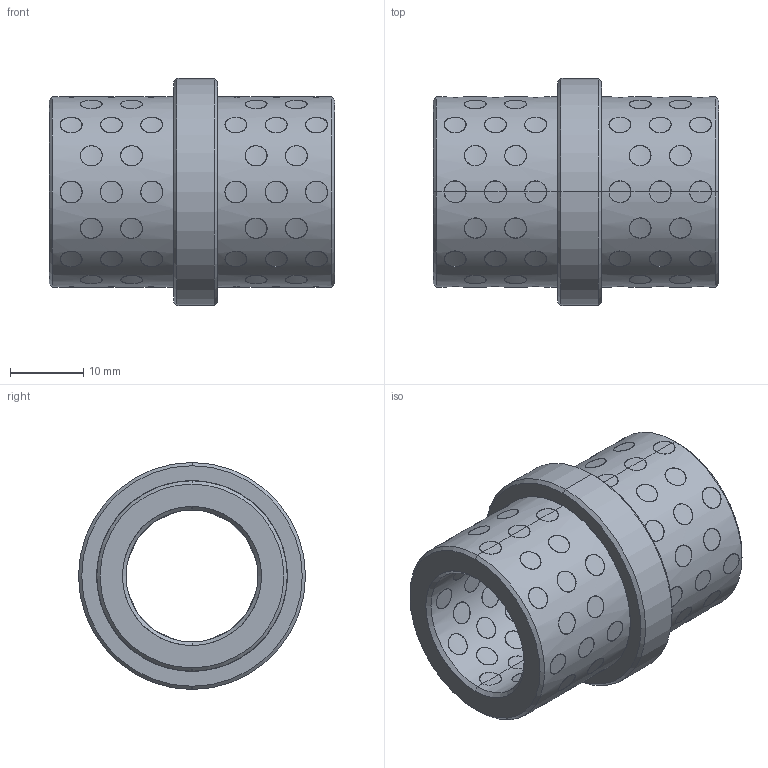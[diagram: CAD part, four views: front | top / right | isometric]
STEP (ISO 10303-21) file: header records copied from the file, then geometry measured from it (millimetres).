
FILE_DESCRIPTION(('CATIA V5 STEP Exchange'),'2;1');
FILE_NAME('C:\Users\Utente\Desktop\3D files G313\G3131822.stp','2020-04-22T07:36:22+00:00',('none'),('none'),'CATIA Version 5 Release 20 GA (IN-10)','CATIA V5 STEP AP203','none');
FILE_SCHEMA(('CONFIG_CONTROL_DESIGN'));
Products named in the file (1): G3131822
Bounding box: 39 x 31 x 31 mm (x, y, z)
Surface area: 12331.9 mm2 (no closed solid volume)
Topology: 0 solids, 528 shells, 528 faces, 2304 edges, 2304 vertices
Faces by surface type: cylinder 512, revolution 12, plane 4
Entity records: 40993 total; most frequent: CARTESIAN_POINT 25052, ORIENTED_EDGE 2304, EDGE_CURVE 2304, VERTEX_POINT 2304, DIRECTION 1867, B_SPLINE_CURVE_WITH_KNOTS 1493, VECTOR 776, LINE 776
